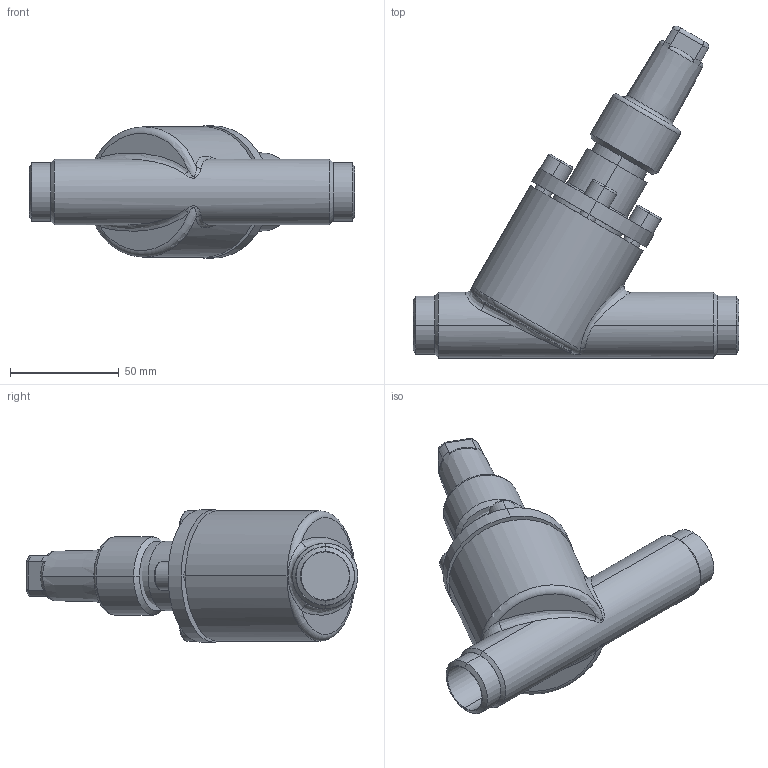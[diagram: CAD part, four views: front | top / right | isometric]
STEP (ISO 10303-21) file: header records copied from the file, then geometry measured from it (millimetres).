
FILE_DESCRIPTION (( 'STEP AP214' ), '1' );
FILE_NAME ('AVB16300D11-DN020_R1_PS40.STEP', '2006-04-27T12:15:48', ( 'Herr Grams' ), ( 'AWP GmbH' ), 'SwSTEP 2.0', 'SolidWorks 2002296', '' );
FILE_SCHEMA (( 'AUTOMOTIVE_DESIGN' ));
Length unit declared in the file: millimetre
Products named in the file (6): AVB16300D11-DN020_R1_PS40; Gehäuse16300-DN020_Standard; AVB16300K10_Deck+Schr-DN10-20_Standard; Deckel16300K10-DN10-20_Standard; Zylinderschraube-DIN912_M 8x 16; Kappe96300E10_DN6-20_Standard
Assembly tree (8 placements, depth 3):
  AVB16300D11-DN020_R1_PS40
    Kappe96300E10_DN6-20_Standard
    AVB16300K10_Deck+Schr-DN10-20_Standard
      Zylinderschraube-DIN912_M 8x 16  x4
      Deckel16300K10-DN10-20_Standard
    Gehäuse16300-DN020_Standard
Bounding box: 150 x 152.92 x 61 mm (x, y, z)
Volume: 266291.7 mm3; surface area: 64506.8 mm2
Topology: 7 solids, 7 shells, 217 faces, 467 edges, 292 vertices
Faces by surface type: cylinder 83, plane 77, cone 26, torus 25, bspline 6
Entity records: 17966 total; most frequent: CARTESIAN_POINT 13716, DIRECTION 838, ORIENTED_EDGE 706, AXIS2_PLACEMENT_3D 358, EDGE_CURVE 353, VERTEX_POINT 220, EDGE_LOOP 193, CIRCLE 189
